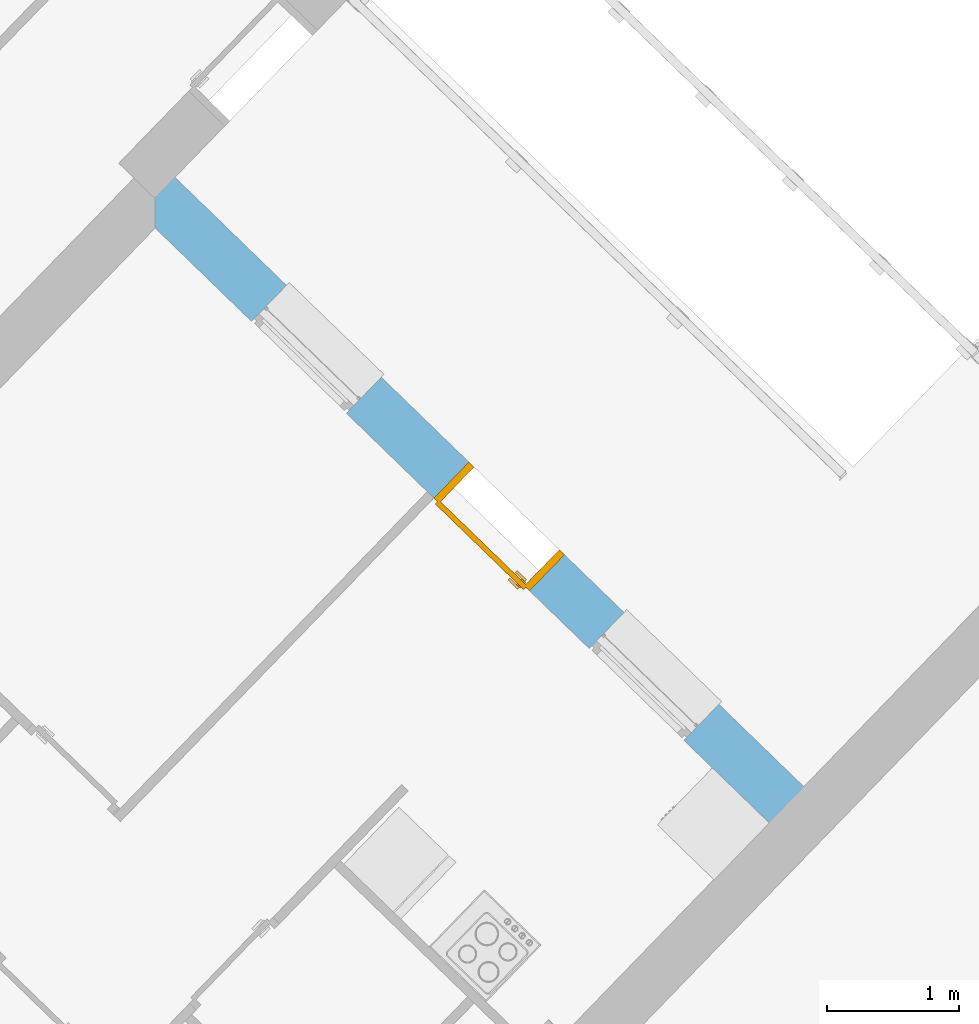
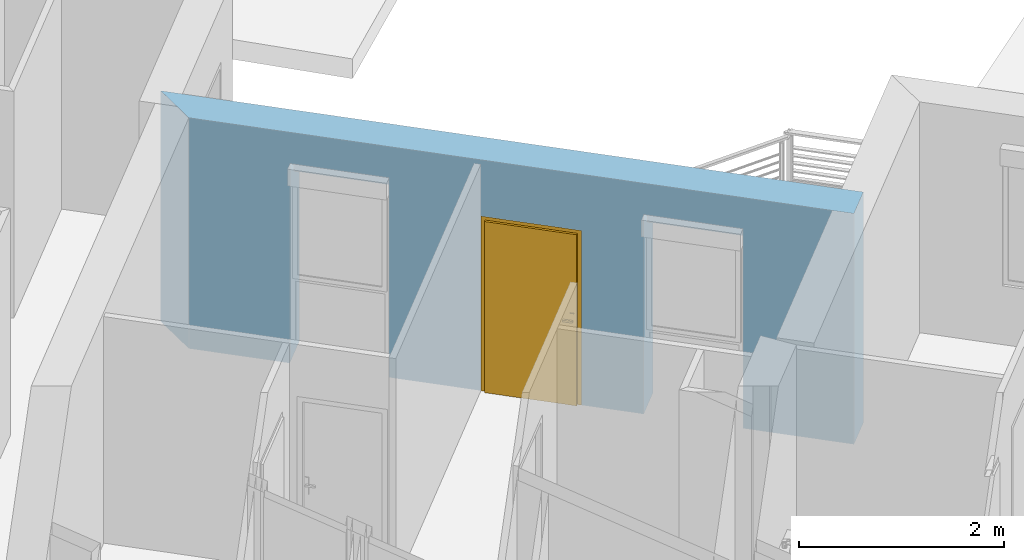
# One storey, part 17 of 121: 1 door, 3 openings, plus 1 element that does not belong to this part.
"""IFC2X3 building model written with IfcOpenShell, lengths in metres."""

from ifc_helpers import new_model, entity, si_unit, converted_unit, derived_unit, money_unit, direction, frame, origin_with_axes, origin_2d_with_axis, place, context, subcontext, project, spatial, polyline, rectangle, outline, extrude, faceted_brep, source, transform, mapped, material, layer, layer_set, layer_usage, type_object, element, fill, save


model = new_model("IFC2X3")

# Units and contexts
model_context = context("Model", 3, precision=1e-05, world=origin_with_axes(), true_north=direction((0.0, 1.0)))
body_context = subcontext(model_context, "Body", "Model", "MODEL_VIEW")
ifc_project = project(units=[si_unit("LENGTHUNIT", "METRE"), si_unit("AREAUNIT", "SQUARE_METRE"), si_unit("VOLUMEUNIT", "CUBIC_METRE"), converted_unit("PLANEANGLEUNIT", "DEGREE", entity("IfcPlaneAngleMeasure", 0.0174532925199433), si_unit("PLANEANGLEUNIT", "RADIAN"), dimensions=[0, 0, 0, 0, 0, 0, 0]), money_unit("CHF"), converted_unit("TIMEUNIT", "Year", entity("IfcTimeMeasure", 31557600.0), si_unit("TIMEUNIT", "SECOND"), dimensions=[0, 0, 1, 0, 0, 0, 0]), si_unit("MASSUNIT", "GRAM", prefix="KILO"), si_unit("THERMODYNAMICTEMPERATUREUNIT", "DEGREE_CELSIUS"), si_unit("LUMINOUSINTENSITYUNIT", "LUMEN"), si_unit("ENERGYUNIT", "JOULE", prefix="MEGA"), derived_unit("THERMALCONDUCTANCEUNIT", [(si_unit("POWERUNIT", "WATT"), 1), (si_unit("LENGTHUNIT", "METRE"), -1), (si_unit("THERMODYNAMICTEMPERATUREUNIT", "KELVIN"), -1)]), derived_unit("SPECIFICHEATCAPACITYUNIT", [(si_unit("ENERGYUNIT", "JOULE"), 1), (si_unit("MASSUNIT", "GRAM", prefix="KILO"), -1), (si_unit("THERMODYNAMICTEMPERATUREUNIT", "KELVIN"), -1)]), derived_unit("MASSDENSITYUNIT", [(si_unit("MASSUNIT", "GRAM", prefix="KILO"), 1), (si_unit("VOLUMEUNIT", "CUBIC_METRE"), -1)])], contexts=[model_context])

# Site, building, storey
site_placement = place(None, origin_with_axes())
site = spatial("IfcSite", under=ifc_project, at=site_placement, Name="Site", CompositionType="ELEMENT")
building_placement = place(site_placement, origin_with_axes())
building = spatial("IfcBuilding", under=site, at=building_placement, Name="Bâtiment", CompositionType="ELEMENT")
storey_placement = place(building_placement, frame((0.0, 0.0, 2.75), z_axis=(0.0, 0.0, 1.0), x_axis=(1.0, 0.0, 0.0)))
storey = spatial("IfcBuildingStorey", under=building, at=storey_placement, Name="Etage 1", CompositionType="ELEMENT", Elevation=2.75)

# Wall, openings, door
ifc_material_1 = material(Name="Parpaing 312445824")
ifc_layer_1 = layer(ifc_material_1, 0.22, ventilated="UNKNOWN")
ifc_material_2 = material(Name="Isolant styromousse 301821074")
ifc_layer_2 = layer(ifc_material_2, 0.16, ventilated="UNKNOWN")
ifc_layer_set = layer_set([ifc_layer_1, ifc_layer_2], Name="isol int 22+16 0836643197")
ifc_layer_usage = layer_usage(ifc_layer_set, "AXIS2", "NEGATIVE", 0.0)
wall_type = type_object("IfcWallType", Name="isol int 22+16 0836643197 380", PredefinedType="NOTDEFINED")
wall_placement = place(storey_placement, frame((9525.675768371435, -1058.227304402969, 57.7), z_axis=(0.0, 0.0, 1.0), x_axis=(0.7181763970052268, -0.6958610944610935, 0.0)))
wall = element("IfcWallStandardCase", 1, at=wall_placement, inside=storey, type_object=wall_type, material=ifc_layer_usage, Name="Mur-113", context=body_context, shape_type="SweptSolid", body=[
    extrude(outline(polyline([(0.3799999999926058, -0.3799999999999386), (7.073994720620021, -0.3799999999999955), (7.073994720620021, 0.0), (0.0, 0.0), (0.3799999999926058, -0.3799999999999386)])), origin_with_axes(), (0.0, 0.0, 1.0), 2.75),
])
opening_1_placement = place(wall_placement, frame((5.457947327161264, 0.0, 0.0), z_axis=(0.0, 0.0, 1.0), x_axis=(1.0, 0.0, 0.0)))
element("IfcOpeningElement", 2, at=opening_1_placement, cuts=wall, Name="Fen-057", context=body_context, shape_type="Brep", body=[
    faceted_brep([(-0.5, -0.2200000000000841, 2.18), (0.5, -0.220000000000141, 2.18), (0.4999999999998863, 3.536236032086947, 2.18), (-0.5, 3.53623603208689, 2.18), (-0.5, -0.2200000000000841, 2.380000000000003), (0.5, -0.220000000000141, 2.380000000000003), (0.5000000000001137, -0.3000000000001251, 2.18), (0.5000000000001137, -0.3000000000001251, 0.0), (0.4999999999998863, 3.536236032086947, 0.0), (-0.5, 3.53623603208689, 0.0), (-0.4999999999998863, -0.3000000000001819, 2.18), (-0.5, -0.3000000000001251, 0.0), (-0.5, -0.480000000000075, 2.18), (-0.5, -0.480000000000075, 2.380000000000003), (0.5, -0.4800000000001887, 2.380000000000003), (0.5, -0.4800000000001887, 2.18), (0.5, -3.916236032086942, 2.18), (0.5, -3.916236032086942, 0.0), (-0.5000000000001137, -3.916236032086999, 0.0), (-0.5000000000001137, -3.916236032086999, 2.18)], [[[0, 1, 2, 3]], [[1, 0, 4, 5]], [[1, 6, 7, 8, 2]], [[2, 8, 9, 3]], [[10, 0, 3, 9, 11]], [[0, 10, 12, 13, 4]], [[4, 13, 14, 5]], [[6, 1, 5, 14, 15]], [[6, 15, 16, 17, 7]], [[11, 9, 8, 7, 17, 18]], [[12, 10, 11, 18, 19]], [[12, 15, 14, 13]], [[15, 12, 19, 16]], [[19, 18, 17, 16]]]),
])
opening_2_placement = place(wall_placement, frame((1.896411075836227, 0.0, 0.0), z_axis=(0.0, 0.0, 1.0), x_axis=(1.0, 0.0, 0.0)))
element("IfcOpeningElement", 3, at=opening_2_placement, cuts=wall, Name="Fen-057", context=body_context, shape_type="Brep", body=[
    faceted_brep([(-0.5, -0.2200000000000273, 2.18), (0.4999999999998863, -0.220000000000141, 2.18), (0.4999999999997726, 3.536236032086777, 2.18), (-0.5000000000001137, 3.53623603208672, 2.18), (-0.5, -0.2200000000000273, 2.380000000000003), (0.4999999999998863, -0.220000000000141, 2.380000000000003), (0.4999999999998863, -0.3000000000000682, 2.18), (0.4999999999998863, -0.3000000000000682, 0.0), (0.4999999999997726, 3.536236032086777, 0.0), (-0.5000000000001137, 3.53623603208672, 0.0), (-0.5000000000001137, -0.3000000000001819, 2.18), (-0.5000000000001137, -0.3000000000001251, 0.0), (-0.5000000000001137, -0.480000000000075, 2.18), (-0.5000000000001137, -0.480000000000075, 2.380000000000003), (0.5, -0.4800000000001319, 2.380000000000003), (0.5, -0.4800000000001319, 2.18), (0.4999999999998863, -3.916236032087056, 2.18), (0.4999999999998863, -3.916236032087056, 0.0), (-0.5000000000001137, -3.916236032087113, 0.0), (-0.5000000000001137, -3.916236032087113, 2.18)], [[[0, 1, 2, 3]], [[1, 0, 4, 5]], [[1, 6, 7, 8, 2]], [[2, 8, 9, 3]], [[10, 0, 3, 9, 11]], [[0, 10, 12, 13, 4]], [[4, 13, 14, 5]], [[6, 1, 5, 14, 15]], [[6, 15, 16, 17, 7]], [[11, 9, 8, 7, 17, 18]], [[12, 10, 11, 18, 19]], [[12, 15, 14, 13]], [[15, 12, 19, 16]], [[19, 18, 17, 16]]]),
])
opening_3_placement = place(wall_placement, frame((3.824898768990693, 0.0, 0.0), z_axis=(0.0, 0.0, 1.0), x_axis=(1.0, 0.0, 0.0)))
opening_3 = element("IfcOpeningElement", 4, at=opening_3_placement, cuts=wall, Name="Por-297", context=body_context, shape_type="SweptSolid", body=[
    extrude(rectangle(XDim=1.01000001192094, YDim=2.079999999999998, at=origin_2d_with_axis()), frame((-5.960373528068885e-09, 0.3799999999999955, 1.039999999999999), z_axis=(0.0, -1.0, 0.0), x_axis=(-1.0, 0.0, 0.0)), (0.0, 0.0, 1.0), 0.76),
])
door_style = type_object("IfcDoorStyle", Name="Porte_1v", ConstructionType="NOTDEFINED", OperationType="NOTDEFINED", ParameterTakesPrecedence=False, Sizeable=False)
shared_shape = source(origin_with_axes(), body_context, "Body", "Brep", [
    faceted_brep([(0.5049999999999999, 0.0, 0.0), (0.465, 0.0, 0.0), (0.4649999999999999, 0.0, 2.04), (-0.4649999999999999, 0.0, 2.04), (-0.465, 0.0, 0.0), (-0.5049999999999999, 0.0, 0.0), (-0.5049999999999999, 0.0, 2.08), (0.5049999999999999, 0.0, 2.08), (0.5049999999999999, -0.38, 0.0), (0.45, -0.3799999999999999, 0.0), (0.45, -0.01500000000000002, 0.0), (0.465, -0.01500000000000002, 0.0), (0.4649999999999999, -0.01500000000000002, 2.04), (-0.4649999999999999, -0.01499999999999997, 2.04), (-0.465, -0.01499999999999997, 0.0), (-0.45, -0.01499999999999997, 0.0), (-0.45, -0.3799999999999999, 0.0), (-0.5049999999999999, -0.3799999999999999, 0.0), (-0.5049999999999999, -0.3799999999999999, 2.08), (0.5049999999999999, -0.38, 2.08), (-0.45, -0.3799999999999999, 2.025), (0.45, -0.3799999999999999, 2.025), (0.45, -0.01500000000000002, 2.025), (-0.45, -0.01499999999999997, 2.025)], [[[0, 1, 2, 3, 4, 5, 6, 7]], [[0, 8, 9, 10, 11, 1]], [[1, 11, 12, 2]], [[2, 12, 13, 3]], [[3, 13, 14, 4]], [[5, 4, 14, 15, 16, 17]], [[18, 6, 5, 17]], [[19, 7, 6, 18]], [[8, 0, 7, 19]], [[9, 8, 19, 18, 17, 16, 20, 21]], [[10, 9, 21, 22]], [[11, 10, 22, 23, 15, 14, 13, 12]], [[23, 20, 16, 15]], [[22, 21, 20, 23]]]),
    faceted_brep([(-0.4, -0.01499999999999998, 0.9), (-0.4399999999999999, -0.01499999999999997, 0.9), (-0.4399999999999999, -0.01499999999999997, 1.1), (-0.4, -0.01499999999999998, 1.1), (-0.4, -0.02499999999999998, 0.9), (-0.4399999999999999, -0.02499999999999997, 0.9), (-0.4399999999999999, -0.02499999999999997, 1.1), (-0.4, -0.02499999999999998, 1.1)], [[[0, 1, 2, 3]], [[1, 0, 4, 5]], [[2, 1, 5, 6]], [[3, 2, 6, 7]], [[0, 3, 7, 4]], [[5, 4, 7, 6]]]),
    faceted_brep([(-0.3299999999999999, -0.02499999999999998, 1.0), (-0.4299999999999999, -0.02499999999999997, 1.0), (-0.4299999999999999, -0.02499999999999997, 1.02), (-0.3299999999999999, -0.02499999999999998, 1.02), (-0.3299999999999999, -0.04499999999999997, 1.0), (-0.4299999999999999, -0.04499999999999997, 1.0), (-0.4299999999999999, -0.04499999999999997, 1.02), (-0.3299999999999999, -0.04499999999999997, 1.02)], [[[0, 1, 2, 3]], [[1, 0, 4, 5]], [[2, 1, 5, 6]], [[3, 2, 6, 7]], [[0, 3, 7, 4]], [[5, 4, 7, 6]]]),
    faceted_brep([(-0.4, 0.03500000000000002, 0.9), (-0.4399999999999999, 0.03500000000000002, 0.9), (-0.4399999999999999, 0.03500000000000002, 1.1), (-0.4, 0.03500000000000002, 1.1), (-0.4, 0.02500000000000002, 0.9), (-0.4399999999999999, 0.02500000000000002, 0.9), (-0.4399999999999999, 0.02500000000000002, 1.1), (-0.4, 0.02500000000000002, 1.1)], [[[0, 1, 2, 3]], [[1, 0, 4, 5]], [[2, 1, 5, 6]], [[3, 2, 6, 7]], [[0, 3, 7, 4]], [[5, 4, 7, 6]]]),
    faceted_brep([(-0.3299999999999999, 0.05500000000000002, 1.0), (-0.4299999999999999, 0.05500000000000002, 1.0), (-0.4299999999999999, 0.05500000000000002, 1.02), (-0.3299999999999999, 0.05500000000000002, 1.02), (-0.3299999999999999, 0.03500000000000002, 1.0), (-0.4299999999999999, 0.03500000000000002, 1.0), (-0.4299999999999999, 0.03500000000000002, 1.02), (-0.3299999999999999, 0.03500000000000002, 1.02)], [[[0, 1, 2, 3]], [[1, 0, 4, 5]], [[2, 1, 5, 6]], [[3, 2, 6, 7]], [[0, 3, 7, 4]], [[5, 4, 7, 6]]]),
    faceted_brep([(-0.465, 0.02500000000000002, 0.0), (0.465, 0.02499999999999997, 0.0), (0.465, -0.01500000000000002, 0.0), (-0.465, -0.01499999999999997, 0.0), (-0.465, 0.02500000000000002, 2.04), (0.465, 0.02499999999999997, 2.04), (0.465, -0.01500000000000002, 2.04), (-0.465, -0.01499999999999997, 2.04)], [[[0, 1, 2, 3]], [[0, 4, 5, 1]], [[1, 5, 6, 2]], [[3, 2, 6, 7]], [[4, 0, 3, 7]], [[5, 4, 7, 6]]]),
])
door_placement = place(opening_3_placement, frame((0.4650000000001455, 0.0, 0.0), z_axis=(0.0, 0.0, 1.0), x_axis=(-1.0, 0.0, 0.0)))
door = element("IfcDoor", 5, at=door_placement, inside=storey, type_object=door_style, Name="Por-297", OverallHeight=2.04, OverallWidth=0.93, context=body_context, shape_type="MappedRepresentation", body=[
    mapped(shared_shape, transform((0.4650000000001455, 0.3800000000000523, 0.0))),
])
fill(opening_3, door)

save(model, "model.ifc")
